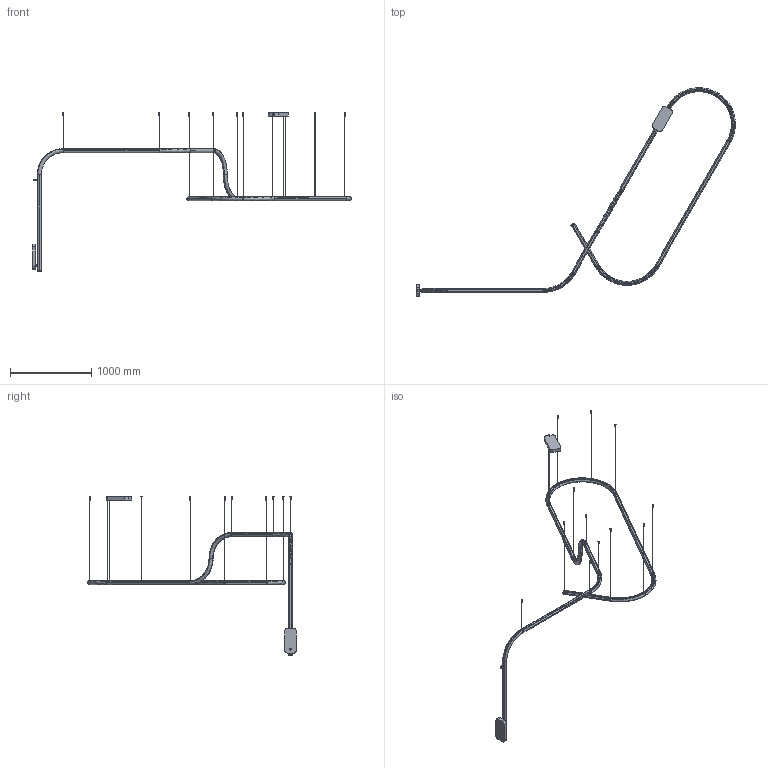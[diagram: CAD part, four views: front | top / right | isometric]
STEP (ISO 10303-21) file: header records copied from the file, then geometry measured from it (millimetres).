
FILE_DESCRIPTION(/* description */ (''),/* implementation_level */ '2;1');
FILE_NAME(/* name */ 'Configurazione Esempio',/* time_stamp */ '2019-09-25T16:18:39+02:00',/* author */ (''),/* organization */ (''),/* preprocessor_version */ 'ST-DEVELOPER v15',/* originating_system */ '',/* authorisation */ '');
FILE_SCHEMA (('AUTOMOTIVE_DESIGN'));
Length unit declared in the file: millimetre
Products named in the file (1): Document
Bounding box: 3934.31 x 2570.87 x 1959.71 mm (x, y, z)
Volume: 8531682.3 mm3; surface area: 4096550.3 mm2
Topology: 60 solids, 85 shells, 1230 faces, 2796 edges, 1773 vertices
Faces by surface type: bspline 945, plane 285
Entity records: 47241 total; most frequent: CARTESIAN_POINT 30768, ORIENTED_EDGE 5542, EDGE_CURVE 2796, VERTEX_POINT 1773, EDGE_LOOP 1348, ADVANCED_FACE 1230, FACE_OUTER_BOUND 1230, B_SPLINE_CURVE_WITH_KNOTS 726
